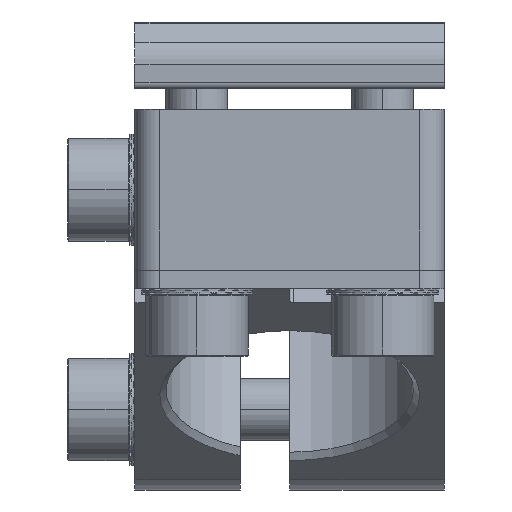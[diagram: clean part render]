
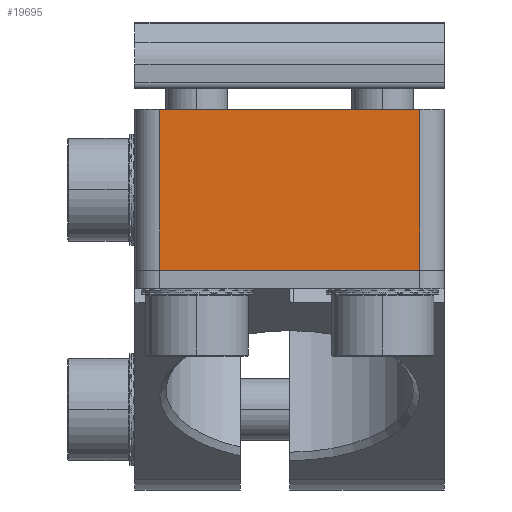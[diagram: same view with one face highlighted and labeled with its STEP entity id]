
A CAD part, left-side view. The second image highlights one B-rep face of the part: STEP entity #19695.
In plain terms, the highlighted planar face has unit normal (-1, 0, 0).
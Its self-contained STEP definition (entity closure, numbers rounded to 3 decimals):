
#127 = AXIS2_PLACEMENT_3D ( 'NONE', #22730, #35816, #19171 ) ;
#221 = ORIENTED_EDGE ( 'NONE', *, *, #16746, .T. ) ;
#3088 = EDGE_LOOP ( 'NONE', ( #39020, #22125, #29084, #221 ) ) ;
#5874 = DIRECTION ( 'NONE',  ( 0., -1., 0. ) ) ;
#7001 = LINE ( 'NONE', #7425, #38110 ) ;
#7425 = CARTESIAN_POINT ( 'NONE',  ( -88.79, 43.555, 5.531 ) ) ;
#8167 = EDGE_CURVE ( 'NONE', #25457, #39718, #16037, .T. ) ;
#9300 = CARTESIAN_POINT ( 'NONE',  ( -88.79, 43.555, 12.031 ) ) ;
#11077 = CARTESIAN_POINT ( 'NONE',  ( -88.79, 33.055, 12.031 ) ) ;
#12823 = CARTESIAN_POINT ( 'NONE',  ( -88.79, 22.555, 12.031 ) ) ;
#12972 = EDGE_CURVE ( 'NONE', #19635, #25457, #7001, .T. ) ;
#16037 = LINE ( 'NONE', #11077, #34676 ) ;
#16746 = EDGE_CURVE ( 'NONE', #41205, #39718, #39953, .T. ) ;
#19078 = CARTESIAN_POINT ( 'NONE',  ( -88.79, 33.055, -0.969 ) ) ;
#19171 = DIRECTION ( 'NONE',  ( 0., 0., -1. ) ) ;
#19635 = VERTEX_POINT ( 'NONE', #38000 ) ;
#19695 = ADVANCED_FACE ( 'NONE', ( #42034 ), #31914, .F. ) ;
#22125 = ORIENTED_EDGE ( 'NONE', *, *, #12972, .F. ) ;
#22730 = CARTESIAN_POINT ( 'NONE',  ( -88.79, 22.555, 12.031 ) ) ;
#24519 = LINE ( 'NONE', #19078, #36502 ) ;
#24837 = VECTOR ( 'NONE', #34585, 1000. ) ;
#25457 = VERTEX_POINT ( 'NONE', #9300 ) ;
#29084 = ORIENTED_EDGE ( 'NONE', *, *, #40853, .T. ) ;
#31914 = PLANE ( 'NONE',  #127 ) ;
#34097 = DIRECTION ( 'NONE',  ( 0., 0., 1. ) ) ;
#34585 = DIRECTION ( 'NONE',  ( 0., 0., 1. ) ) ;
#34676 = VECTOR ( 'NONE', #41548, 1000. ) ;
#34683 = CARTESIAN_POINT ( 'NONE',  ( -88.79, 22.555, -0.969 ) ) ;
#34730 = CARTESIAN_POINT ( 'NONE',  ( -88.79, 22.555, 5.531 ) ) ;
#35816 = DIRECTION ( 'NONE',  ( 1., 0., 0. ) ) ;
#36502 = VECTOR ( 'NONE', #5874, 1000. ) ;
#38000 = CARTESIAN_POINT ( 'NONE',  ( -88.79, 43.555, -0.969 ) ) ;
#38110 = VECTOR ( 'NONE', #34097, 1000. ) ;
#39020 = ORIENTED_EDGE ( 'NONE', *, *, #8167, .F. ) ;
#39718 = VERTEX_POINT ( 'NONE', #12823 ) ;
#39953 = LINE ( 'NONE', #34730, #24837 ) ;
#40853 = EDGE_CURVE ( 'NONE', #19635, #41205, #24519, .T. ) ;
#41205 = VERTEX_POINT ( 'NONE', #34683 ) ;
#41548 = DIRECTION ( 'NONE',  ( 0., -1., 0. ) ) ;
#42034 = FACE_OUTER_BOUND ( 'NONE', #3088, .T. ) ;
